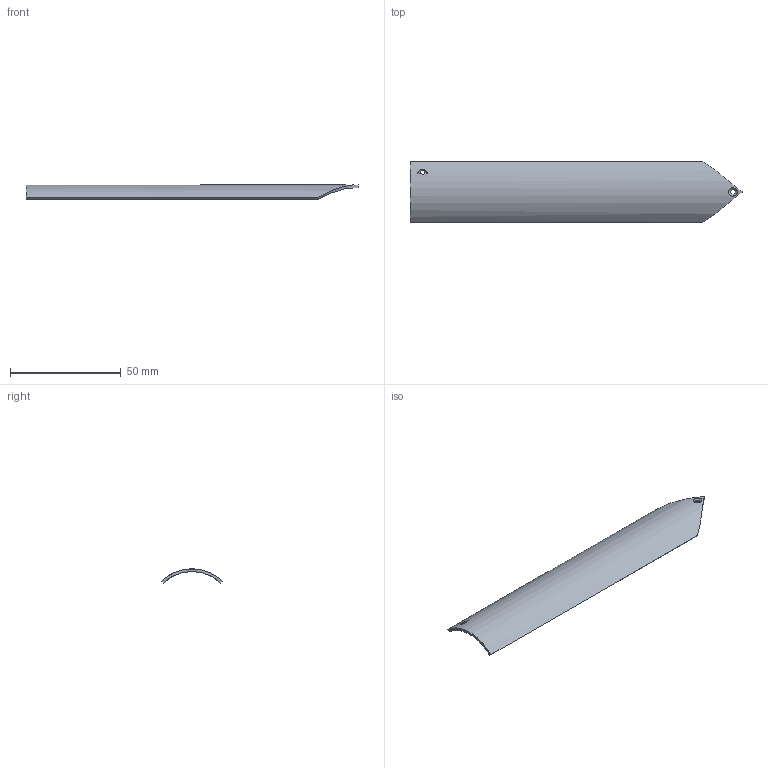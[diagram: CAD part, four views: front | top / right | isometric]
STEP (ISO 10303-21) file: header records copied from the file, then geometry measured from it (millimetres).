
FILE_DESCRIPTION(('Open CASCADE Model'),'2;1');
FILE_NAME('Open CASCADE Shape Model','2026-10-07T11:47:16',('Author'),( 'Open CASCADE'),'Open CASCADE STEP processor 7.9','Open CASCADE 7.9' ,'Unknown');
FILE_SCHEMA(('AUTOMOTIVE_DESIGN { 1 0 10303 214 1 1 1 1 }'));
Length unit declared in the file: millimetre
Products named in the file (1): Open CASCADE STEP translator 7.9 14
Bounding box: 149.71 x 27.57 x 6.38 mm (x, y, z)
Volume: 4967.2 mm3; surface area: 8718.2 mm2
Topology: 1 solids, 1 shells, 17 faces, 44 edges, 29 vertices
Faces by surface type: plane 8, cylinder 5, cone 2, bspline 2
Full cylindrical faces by diameter (mm): 2.2 x1
Entity records: 2482 total; most frequent: CARTESIAN_POINT 1679, DIRECTION 119, ORIENTED_EDGE 88, PCURVE 88, DEFINITIONAL_REPRESENTATION 88, LINE 56, VECTOR 56, B_SPLINE_CURVE_WITH_KNOTS 51
